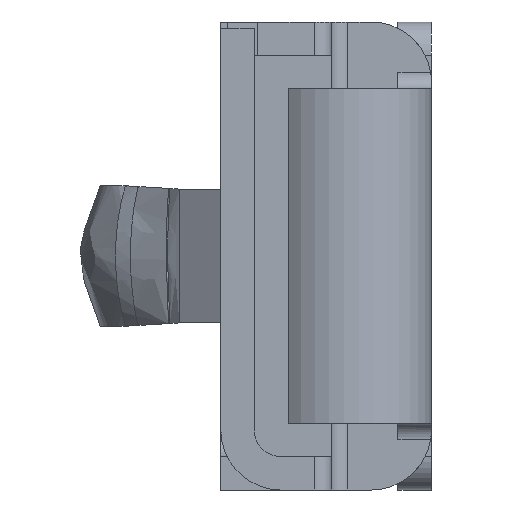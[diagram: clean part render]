
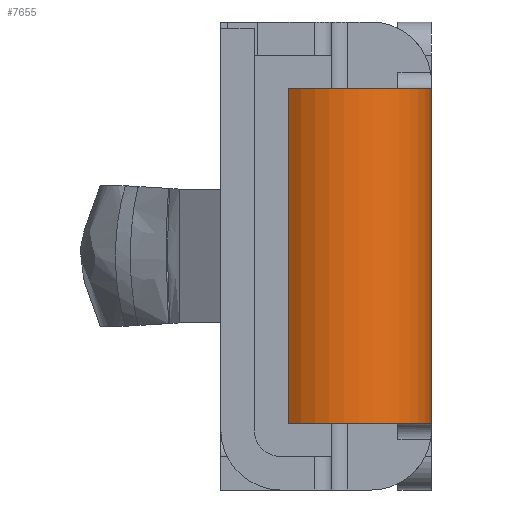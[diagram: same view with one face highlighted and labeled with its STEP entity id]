
A CAD part, left-side view. The second image highlights one B-rep face of the part: STEP entity #7655.
In plain terms, the highlighted cylindrical face has radius 0.26 mm (diameter 0.52 mm), a partial arc.
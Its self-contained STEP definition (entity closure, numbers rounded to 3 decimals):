
#2009=DIRECTION('',(0.,-1.,0.));
#2010=VECTOR('',#2009,1.);
#2011=CARTESIAN_POINT('',(1.19,0.5,-0.426));
#2012=LINE('',#2011,#2010);
#2013=CARTESIAN_POINT('',(1.,-0.5,0.));
#2014=CARTESIAN_POINT('',(0.999,-0.5,0.));
#2015=CARTESIAN_POINT('',(0.997,-0.5,0.));
#2016=CARTESIAN_POINT('',(0.993,-0.5,0.));
#2017=CARTESIAN_POINT('',(0.991,-0.5,0.));
#2018=CARTESIAN_POINT('',(0.99,-0.5,0.));
#2020=DIRECTION('',(0.,1.,0.));
#2021=VECTOR('',#2020,1.);
#2022=CARTESIAN_POINT('',(0.99,-0.5,0.));
#2023=LINE('',#2022,#2021);
#2024=CARTESIAN_POINT('',(1.,0.5,0.));
#2025=CARTESIAN_POINT('',(0.999,0.5,0.));
#2026=CARTESIAN_POINT('',(0.997,0.5,0.));
#2027=CARTESIAN_POINT('',(0.993,0.5,0.));
#2028=CARTESIAN_POINT('',(0.991,0.5,0.));
#2029=CARTESIAN_POINT('',(0.99,0.5,0.));
#2056=CARTESIAN_POINT('',(0.99,-0.5,-0.26));
#2057=DIRECTION('',(0.,1.,0.));
#2058=DIRECTION('',(0.038,0.,0.999));
#2059=AXIS2_PLACEMENT_3D('',#2056,#2057,#2058);
#2386=CARTESIAN_POINT('',(0.99,0.5,-0.26));
#2387=DIRECTION('',(0.,1.,0.));
#2388=DIRECTION('',(0.038,0.,0.999));
#2389=AXIS2_PLACEMENT_3D('',#2386,#2387,#2388);
#3981=VERTEX_POINT('',#2024);
#3982=VERTEX_POINT('',#2029);
#3983=VERTEX_POINT('',#2013);
#3984=VERTEX_POINT('',#2018);
#4185=CARTESIAN_POINT('',(1.19,0.5,-0.426));
#4186=CARTESIAN_POINT('',(1.19,-0.5,-0.426));
#4187=VERTEX_POINT('',#4185);
#4188=VERTEX_POINT('',#4186);
#7640=CARTESIAN_POINT('',(0.99,-0.2,-0.26));
#7641=DIRECTION('',(0.,1.,0.));
#7642=DIRECTION('',(1.,0.,0.));
#7643=AXIS2_PLACEMENT_3D('',#7640,#7641,#7642);
#7644=CYLINDRICAL_SURFACE('',#7643,0.26);
#7645=ORIENTED_EDGE('',*,*,#7318,.T.);
#7647=ORIENTED_EDGE('',*,*,#7646,.F.);
#7648=ORIENTED_EDGE('',*,*,#7419,.T.);
#7649=ORIENTED_EDGE('',*,*,#7417,.T.);
#7650=ORIENTED_EDGE('',*,*,#7513,.F.);
#7652=ORIENTED_EDGE('',*,*,#7651,.T.);
#7653=EDGE_LOOP('',(#7645,#7647,#7648,#7649,#7650,#7652));
#7654=FACE_OUTER_BOUND('',#7653,.F.);
#7655=ADVANCED_FACE('',(#7654),#7644,.T.);
#2019=B_SPLINE_CURVE_WITH_KNOTS('',3,(#2013,#2014,#2015,#2016,#2017,#2018),
.UNSPECIFIED.,.F.,.F.,(4,1,1,4),(0.,0.333,0.667,1.),
.UNSPECIFIED.);
#2030=B_SPLINE_CURVE_WITH_KNOTS('',3,(#2024,#2025,#2026,#2027,#2028,#2029),
.UNSPECIFIED.,.F.,.F.,(4,1,1,4),(0.,0.333,0.667,1.),
.UNSPECIFIED.);
#2060=CIRCLE('',#2059,0.26);
#2390=CIRCLE('',#2389,0.26);
#7318=EDGE_CURVE('',#4187,#4188,#2012,.T.);
#7417=EDGE_CURVE('',#3984,#3982,#2023,.T.);
#7419=EDGE_CURVE('',#3983,#3984,#2019,.T.);
#7513=EDGE_CURVE('',#3981,#3982,#2030,.T.);
#7646=EDGE_CURVE('',#3983,#4188,#2060,.T.);
#7651=EDGE_CURVE('',#3981,#4187,#2390,.T.);
